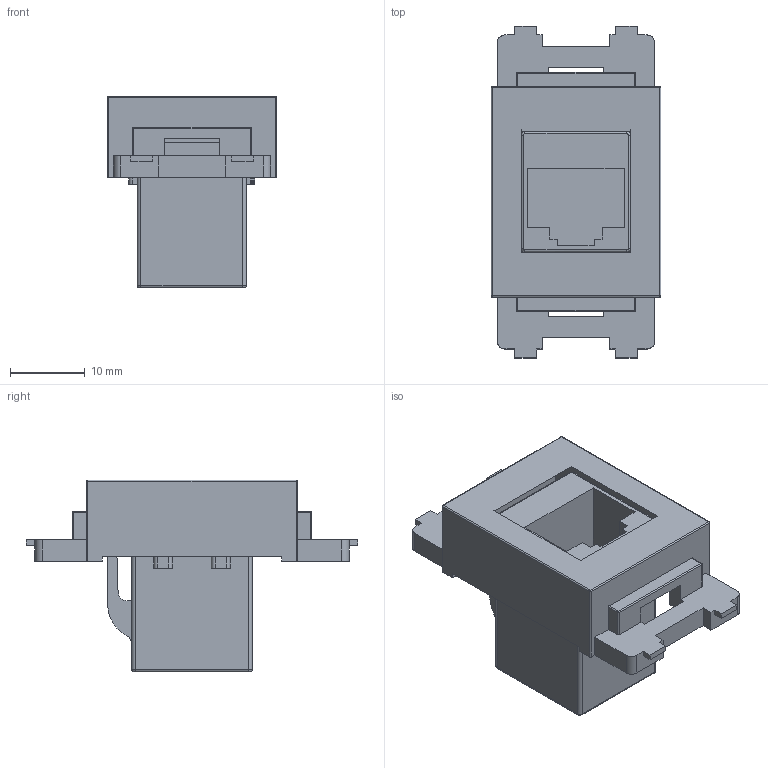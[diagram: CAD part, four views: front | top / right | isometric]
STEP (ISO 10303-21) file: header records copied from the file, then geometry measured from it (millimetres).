
FILE_DESCRIPTION(('FreeCAD Model'),'2;1');
FILE_NAME('Open CASCADE Shape Model','2026-05-12T10:17:56',(''),(''), 'Open CASCADE STEP processor 7.8','FreeCAD','Unknown');
FILE_SCHEMA(('AUTOMOTIVE_DESIGN { 1 0 10303 214 1 1 1 1 }'));
Length unit declared in the file: millimetre
Products named in the file (3): CC_C6_WH_KV; SY-NWT-KV-xx; 3013AJIC6WH
Assembly tree (2 placements, depth 2):
  CC_C6_WH_KV
    SY-NWT-KV-xx
    3013AJIC6WH
Bounding box: 22.65 x 44.3 x 25.6 mm (x, y, z)
Volume: 7411.7 mm3; surface area: 7661.1 mm2
Topology: 2 solids, 2 shells, 309 faces, 835 edges, 534 vertices
Faces by surface type: bspline 309
Entity records: 13142 total; most frequent: CARTESIAN_POINT 7991, ORIENTED_EDGE 1670, EDGE_CURVE 835, B_SPLINE_CURVE_WITH_KNOTS 835, VERTEX_POINT 534, FACE_BOUND 319, EDGE_LOOP 319, ADVANCED_FACE 309
